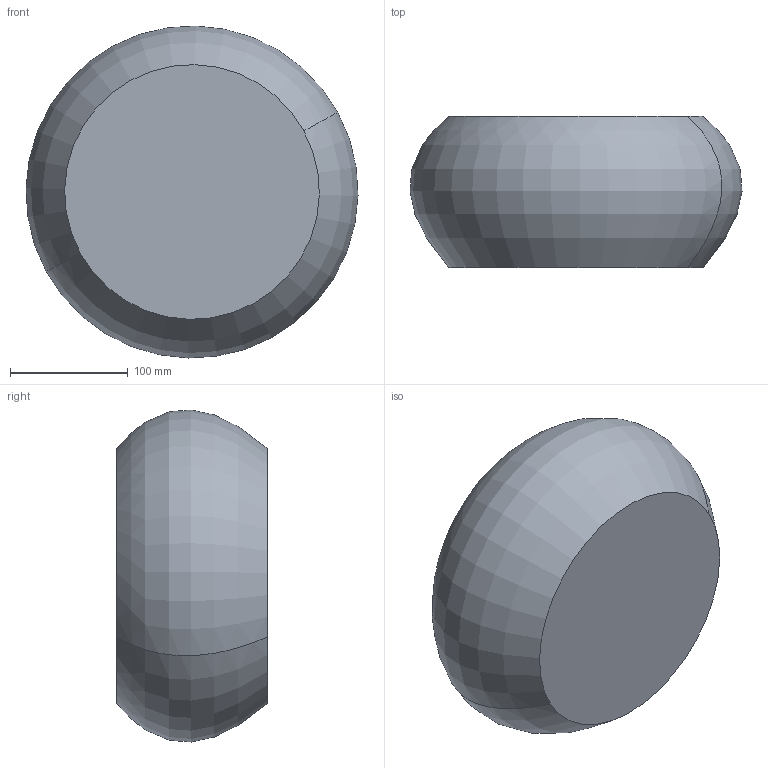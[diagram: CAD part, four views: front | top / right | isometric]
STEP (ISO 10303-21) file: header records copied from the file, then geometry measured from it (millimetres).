
FILE_DESCRIPTION(('CATIA V5 STEP Exchange'),'2;1');
FILE_NAME('C:\_Andres\UNIVERSIDAD\IQS\ASIGNATURAS\DAO\EXF\EXF-15161c\1original\Perelló_Ibarra_Ej10-decora_v18.stp','2016-03-04T22:24:13+00:00',('none'),('none'),'CATIA Version 5 Release 20 SP 1 (IN-10)','CATIA V5 STEP AP203','none');
FILE_SCHEMA(('CONFIG_CONTROL_DESIGN'));
Length unit declared in the file: millimetre
Products named in the file (1): Perelló_Ibarra_Ej10-decora_v18
Bounding box: 281.54 x 128 x 281.54 mm (x, y, z)
Volume: 6833333.8 mm3; surface area: 193211.9 mm2
Topology: 1 solids, 1 shells, 4 faces, 6 edges, 4 vertices
Faces by surface type: revolution 2, plane 2
Entity records: 166 total; most frequent: CARTESIAN_POINT 50, DIRECTION 12, ORIENTED_EDGE 12, AXIS2_PLACEMENT_3D 8, EDGE_CURVE 6, ADVANCED_FACE 4, B_SPLINE_CURVE_WITH_KNOTS 4, CC_DESIGN_PERSON_AND_ORGANIZATION_ASSIGNMENT 4
